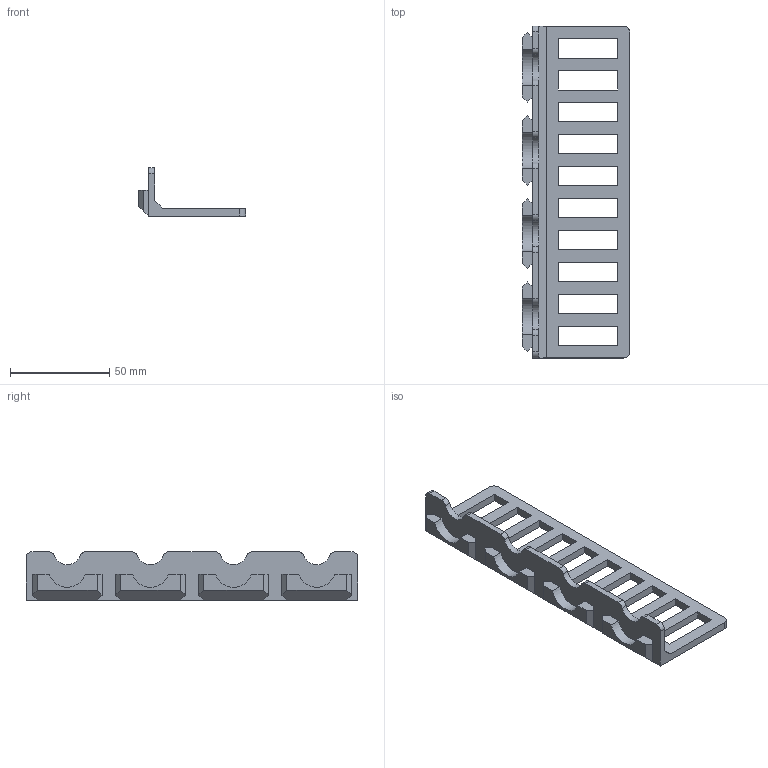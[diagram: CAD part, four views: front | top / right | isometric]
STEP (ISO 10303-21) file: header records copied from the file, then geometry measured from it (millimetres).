
FILE_DESCRIPTION(/* description */ ('','CAx-IF Rec.Pracs.---Representation and Presentation of Product Manufacturing Information (PMI)---4.0---2014-10-13'),/* implementation_level */ '2;1');
FILE_NAME(/* name */ 'Goews 4x Hanger Slot Shelf 10 Slots.step',/* time_stamp */ '2024-12-07T23:27:42-05:00',/* author */ (''),/* organization */ (''),/* preprocessor_version */ 'ST-DEVELOPER v20',/* originating_system */ 'Autodesk Translation Framework v13.20.0.188',/* authorisation */ '');
FILE_SCHEMA (('AP242_MANAGED_MODEL_BASED_3D_ENGINEERING_MIM_LF { 1 0 10303 442 1 1 4 }'));
Length unit declared in the file: millimetre
Products named in the file (1): Goews 4x Hanger Slot Shelf 1x Parametric
Bounding box: 54.15 x 167.6 x 24.39 mm (x, y, z)
Volume: 36927.1 mm3; surface area: 23143.1 mm2
Topology: 1 solids, 1 shells, 117 faces, 325 edges, 214 vertices
Faces by surface type: plane 97, cylinder 20
Entity records: 3768 total; most frequent: CARTESIAN_POINT 657, ORIENTED_EDGE 650, DIRECTION 601, EDGE_CURVE 325, LINE 285, VECTOR 285, VERTEX_POINT 214, AXIS2_PLACEMENT_3D 158
